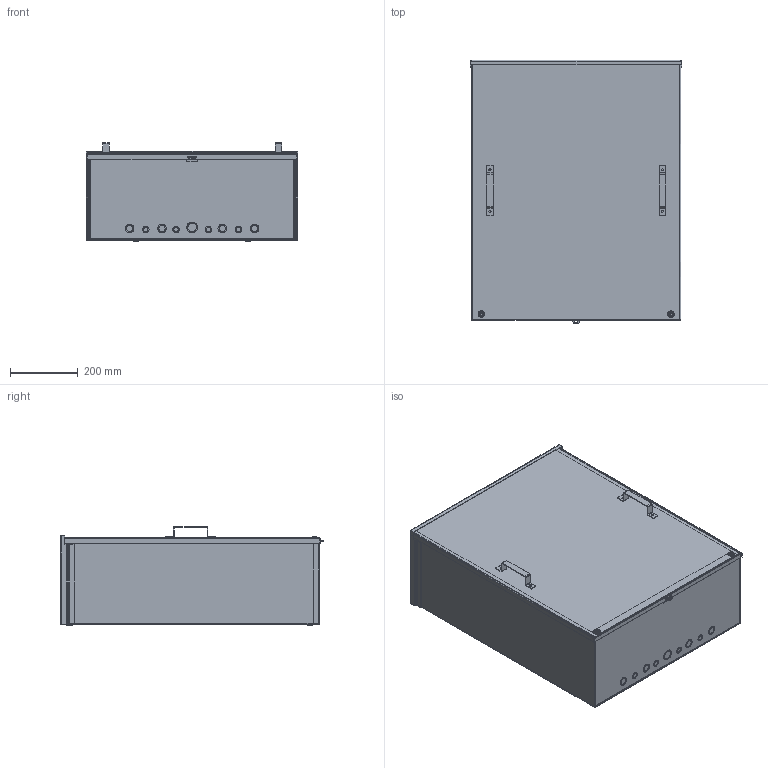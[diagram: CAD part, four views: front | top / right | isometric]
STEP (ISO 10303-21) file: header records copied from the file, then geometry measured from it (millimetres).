
FILE_DESCRIPTION((''),'2;1');
FILE_NAME('D:\scratch\ideas\a30r2410.stp','2007-02-01T09:24:31',( 'User'),('SDRC'),'I-DEAS Master Series 9','UNIX','Yes');
FILE_SCHEMA(('AUTOMOTIVE_DESIGN { 1 0 10303 214 0 1 1 1 }'));
Length unit declared in the file: inch
Products named in the file (9): 13401; 3rsc_wmt_body_30x24x10; 3rsc_top_24x10; 3rsc_bottom_24x10; 3rsc_body_30x24x10; assy_cvr_30x24; 79211001; 3rsc_cover_30x24; 78124001
Assembly tree (9 placements, depth 3):
  13401
    3rsc_wmt_body_30x24x10
      3rsc_top_24x10
      3rsc_bottom_24x10
      3rsc_body_30x24x10
    assy_cvr_30x24
      79211001  x2
      3rsc_cover_30x24
    78124001
Bounding box: 622.3 x 777.95 x 291.72 mm (x, y, z)
Volume: 2457642.8 mm3; surface area: 3523866.1 mm2
Topology: 7 solids, 7 shells, 343 faces, 841 edges, 540 vertices
Faces by surface type: bspline 343
Entity records: 10223 total; most frequent: CARTESIAN_POINT 5149, ORIENTED_EDGE 1550, EDGE_CURVE 775, VERTEX_POINT 496, EDGE_LOOP 387, QUASI_UNIFORM_CURVE 380, FACE_OUTER_BOUND 319, ADVANCED_FACE 319
